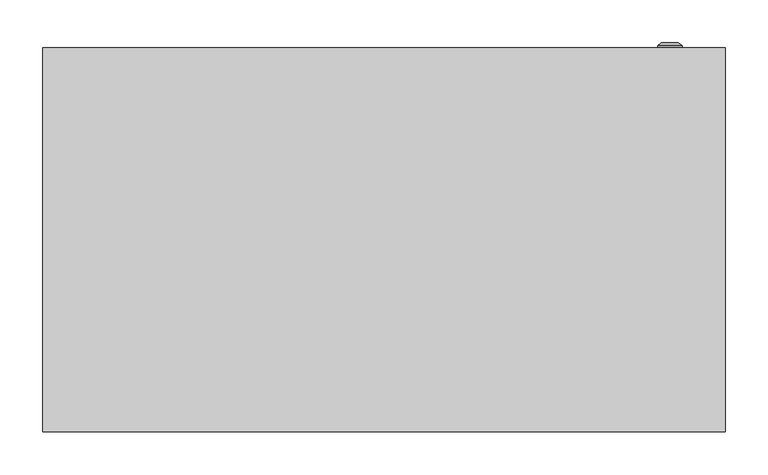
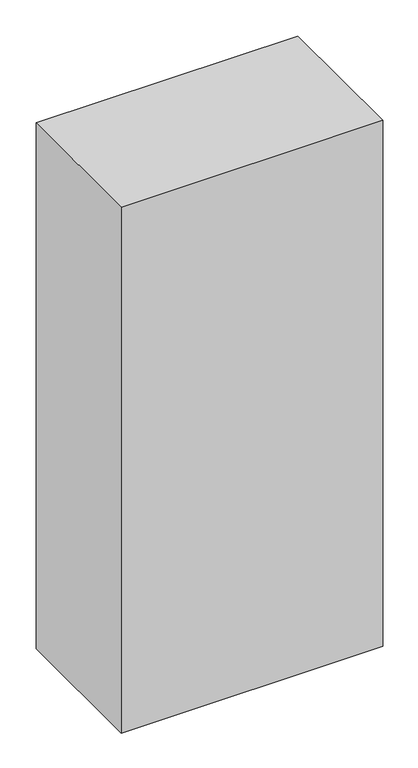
"""IFC4 building model written with IfcOpenShell, lengths in millimetres: proxy geometry, ШРС : ВРУ(ШРС)_моноблочный_1700х800х450."""

from ifc_helpers import new_model, si_unit, frame, origin, place, context, project, spatial, polyline, circle_curve, outline, extrude, faceted_brep, source, transform, mapped, element, save
from ifc_brep_helpers import plane_surface, cylinder_surface, revolved_surface, advanced_brep


def electrical_equipment_0d639fd2(model_context):
    return source(origin(), model_context, "Body", "SolidModel", [
        faceted_brep([(386.0, 430.0, 1635.0), (386.0, 430.0, 65.0187804), (-386.0, 430.0, 65.0187804), (-386.0, 430.0, 1635.0), (365.8707865, 430.0, 93.3701084), (365.8707865, 430.0, 1592.9861595), (-363.3426966, 430.0, 1592.9861595), (-363.3426966, 430.0, 93.3701084), (-400.0, 0.0, 1700.0), (-400.0, 450.0, 1700.0), (-400.0, 450.0, 0.0), (-400.0, 0.0, 0.0), (400.0, 450.0, 1700.0), (400.0, 0.0, 1700.0), (400.0, 0.0, 0.0), (400.0, 450.0, 0.0), (-363.3426966, 10.0, 93.3701084), (365.8707865, 10.0, 93.3701084), (-363.3426966, 10.0, 1592.9861595), (365.8707865, 10.0, 1592.9861595), (386.0, 450.0, 1635.0), (-386.0, 450.0, 1635.0), (386.0, 450.0, 65.0187804), (-386.0, 450.0, 65.0187804)], [[[0, 1, 2, 3], [4, 5, 6, 7]], [[8, 9, 10, 11]], [[12, 13, 14, 15]], [[4, 7, 16, 17]], [[7, 6, 18, 16]], [[6, 5, 19, 18]], [[5, 4, 17, 19]], [[12, 9, 8, 13]], [[20, 0, 3, 21]], [[9, 12, 15, 10], [22, 20, 21, 23]], [[14, 13, 8, 11]], [[1, 22, 23, 2]], [[15, 14, 11, 10]], [[20, 22, 1, 0]], [[23, 21, 3, 2]], [[17, 16, 18, 19]]]),
        extrude(outline(polyline([(-355.8707865, 125.9831461), (-315.8707865, 125.9831461), (-315.8707865, 93.1179775), (-318.8707865, 93.1179775), (-318.8707865, 122.9831461), (-352.8707865, 122.9831461), (-352.8707865, 93.1179775), (-355.8707865, 93.1179775), (-355.8707865, 125.9831461)])), frame((0.0, 0.0, 189.6067416), z_axis=(0.0, 0.0, 1.0), x_axis=(1.0, 0.0, 0.0)), (0.0, 0.0, 1.0), 1445.3932584),
        extrude(outline(polyline([(315.8707865, 125.9831461), (355.8707865, 125.9831461), (355.8707865, 93.1179775), (352.8707865, 93.1179775), (352.8707865, 122.9831461), (318.8707865, 122.9831461), (318.8707865, 93.1179775), (315.8707865, 93.1179775), (315.8707865, 125.9831461)])), frame((0.0, 0.0, 189.6067416), z_axis=(0.0, 0.0, 1.0), x_axis=(1.0, 0.0, 0.0)), (0.0, 0.0, 1.0), 1445.3932584),
        extrude(outline(polyline([(-355.8707865, 10.0), (-365.8707865, 10.0), (-365.8707865, 430.0), (-355.8707865, 430.0), (-355.8707865, 10.0)])), frame((0.0, 0.0, 1545.5966059), z_axis=(0.0, 0.0, 1.0), x_axis=(1.0, 0.0, 0.0)), (0.0, 0.0, 1.0), 53.0898876),
        extrude(outline(polyline([(365.8707865, 10.0), (355.8707865, 10.0), (355.8707865, 430.0), (365.8707865, 430.0), (365.8707865, 10.0)])), frame((0.0, 0.0, 1545.5966059), z_axis=(0.0, 0.0, 1.0), x_axis=(1.0, 0.0, 0.0)), (0.0, 0.0, 1.0), 53.0898876),
        extrude(outline(polyline([(-355.8707865, 10.0), (-365.8707865, 10.0), (-365.8707865, 430.0), (-355.8707865, 430.0), (-355.8707865, 10.0)])), frame((0.0, 0.0, 305.5966059), z_axis=(0.0, 0.0, 1.0), x_axis=(1.0, 0.0, 0.0)), (0.0, 0.0, 1.0), 53.0898876),
        extrude(outline(polyline([(365.8707865, 10.0), (355.8707865, 10.0), (355.8707865, 430.0), (365.8707865, 430.0), (365.8707865, 10.0)])), frame((0.0, 0.0, 305.5966059), z_axis=(0.0, 0.0, 1.0), x_axis=(1.0, 0.0, 0.0)), (0.0, 0.0, 1.0), 53.0898876),
        extrude(outline(polyline([(-355.8707865, 10.0), (-365.8707865, 10.0), (-365.8707865, 430.0), (-355.8707865, 430.0), (-355.8707865, 10.0)])), frame((0.0, 0.0, 785.5966059), z_axis=(0.0, 0.0, 1.0), x_axis=(1.0, 0.0, 0.0)), (0.0, 0.0, 1.0), 53.0898876),
        extrude(outline(polyline([(365.8707865, 10.0), (355.8707865, 10.0), (355.8707865, 430.0), (365.8707865, 430.0), (365.8707865, 10.0)])), frame((0.0, 0.0, 785.5966059), z_axis=(0.0, 0.0, 1.0), x_axis=(1.0, 0.0, 0.0)), (0.0, 0.0, 1.0), 53.0898876),
        advanced_brep(
        [(320.669873, 450.0, 365.0), (349.330127, 450.0, 365.0), (335.0, 450.0, 365.0), (320.669873, 452.366592, 365.0), (349.330127, 452.366592, 365.0), (325.0, 456.0, 365.0), (345.0, 456.0, 365.0), (333.1080471, 456.0, 365.0), (336.8919529, 456.0, 365.0), (333.1080471, 454.9822294, 365.0), (336.8919529, 454.9822294, 365.0), (335.0, 454.9822294, 365.0)],
        [
            (0, 1, circle_curve(frame((335.0, 450.0, 365.0), z_axis=(0.0, -1.0, 0.0), x_axis=(1.0, 0.0, 0.0)), 14.330127)),
            (1, 2),
            (2, 0),
            (1, 0, circle_curve(frame((335.0, 450.0, 365.0), z_axis=(0.0, -1.0, 0.0), x_axis=(1.0, 0.0, 0.0)), 14.330127)),
            (3, 4, circle_curve(frame((335.0, 452.366592, 365.0), z_axis=(0.0, -1.0, 0.0), x_axis=(1.0, 0.0, 0.0)), 14.330127)),
            (4, 1),
            (0, 3),
            (4, 3, circle_curve(frame((335.0, 452.366592, 365.0), z_axis=(0.0, -1.0, 0.0), x_axis=(1.0, 0.0, 0.0)), 14.330127)),
            (5, 6, circle_curve(frame((335.0, 456.0, 365.0), z_axis=(0.0, -1.0, 0.0), x_axis=(1.0, 0.0, 0.0)), 10.0)),
            (6, 4),
            (3, 5),
            (6, 5, circle_curve(frame((335.0, 456.0, 365.0), z_axis=(0.0, -1.0, 0.0), x_axis=(1.0, 0.0, 0.0)), 10.0)),
            (7, 8, circle_curve(frame((335.0, 456.0, 365.0), z_axis=(0.0, -1.0, 0.0), x_axis=(1.0, 0.0, 0.0)), 1.8919529)),
            (8, 6),
            (5, 7),
            (8, 7, circle_curve(frame((335.0, 456.0, 365.0), z_axis=(0.0, -1.0, 0.0), x_axis=(1.0, 0.0, 0.0)), 1.8919529)),
            (9, 10, circle_curve(frame((335.0, 454.9822294, 365.0), z_axis=(0.0, -1.0, 0.0), x_axis=(1.0, 0.0, 0.0)), 1.8919529)),
            (10, 8),
            (7, 9),
            (10, 9, circle_curve(frame((335.0, 454.9822294, 365.0), z_axis=(0.0, -1.0, 0.0), x_axis=(1.0, 0.0, 0.0)), 1.8919529)),
            (11, 10),
            (9, 11),
        ],
        [
            plane_surface(frame((335.0, 450.0, 365.0), z_axis=(0.0, -1.0, 0.0), x_axis=(1.0, 0.0, 0.0))),
            cylinder_surface(frame((335.0, 463.1348851, 365.0), z_axis=(0.0, 1.0, 0.0), x_axis=(1.0, 0.0, 0.0)), 14.330127),
            revolved_surface(polyline([(349.330127, 452.366592, 365.0), (345.0, 456.0, 365.0)]), (335.0, 463.1348851, 365.0), (0.0, 1.0, 0.0)),
            plane_surface(frame((335.0, 456.0, 365.0), z_axis=(0.0, 1.0, 0.0), x_axis=(1.0, 0.0, 0.0))),
            revolved_surface(polyline([(336.8919529, 456.0, 365.0), (336.8919529, 454.9822294, 365.0)]), (335.0, 463.1348851, 365.0), (0.0, 1.0, 0.0)),
            plane_surface(frame((335.0, 454.9822294, 365.0), z_axis=(0.0, 1.0, 0.0), x_axis=(1.0, 0.0, 0.0))),
        ],
        [
            (0, [[1, 2, 3]]),
            (0, [[4, -3, -2]]),
            (1, [[5, 6, -1, 7]]),
            (1, [[8, -7, -4, -6]]),
            (2, [[9, 10, -5, 11]]),
            (2, [[12, -11, -8, -10]]),
            (3, [[13, 14, -9, 15]]),
            (3, [[16, -15, -12, -14]]),
            (4, [[17, 18, -13, 19]]),
            (4, [[20, -19, -16, -18]]),
            (5, [[21, -17, 22]]),
            (5, [[-22, -20, -21]]),
        ],
    ),
        advanced_brep(
        [(320.669873, 450.0, 1335.0), (349.330127, 450.0, 1335.0), (335.0, 450.0, 1335.0), (320.669873, 452.366592, 1335.0), (349.330127, 452.366592, 1335.0), (325.0, 456.0, 1335.0), (345.0, 456.0, 1335.0), (333.1080471, 456.0, 1335.0), (336.8919529, 456.0, 1335.0), (333.1080471, 454.9822294, 1335.0), (336.8919529, 454.9822294, 1335.0), (335.0, 454.9822294, 1335.0)],
        [
            (0, 1, circle_curve(frame((335.0, 450.0, 1335.0), z_axis=(0.0, -1.0, 0.0), x_axis=(1.0, 0.0, 0.0)), 14.330127)),
            (1, 2),
            (2, 0),
            (1, 0, circle_curve(frame((335.0, 450.0, 1335.0), z_axis=(0.0, -1.0, 0.0), x_axis=(1.0, 0.0, 0.0)), 14.330127)),
            (3, 4, circle_curve(frame((335.0, 452.366592, 1335.0), z_axis=(0.0, -1.0, 0.0), x_axis=(1.0, 0.0, 0.0)), 14.330127)),
            (4, 1),
            (0, 3),
            (4, 3, circle_curve(frame((335.0, 452.366592, 1335.0), z_axis=(0.0, -1.0, 0.0), x_axis=(1.0, 0.0, 0.0)), 14.330127)),
            (5, 6, circle_curve(frame((335.0, 456.0, 1335.0), z_axis=(0.0, -1.0, 0.0), x_axis=(1.0, 0.0, 0.0)), 10.0)),
            (6, 4),
            (3, 5),
            (6, 5, circle_curve(frame((335.0, 456.0, 1335.0), z_axis=(0.0, -1.0, 0.0), x_axis=(1.0, 0.0, 0.0)), 10.0)),
            (7, 8, circle_curve(frame((335.0, 456.0, 1335.0), z_axis=(0.0, -1.0, 0.0), x_axis=(1.0, 0.0, 0.0)), 1.8919529)),
            (8, 6),
            (5, 7),
            (8, 7, circle_curve(frame((335.0, 456.0, 1335.0), z_axis=(0.0, -1.0, 0.0), x_axis=(1.0, 0.0, 0.0)), 1.8919529)),
            (9, 10, circle_curve(frame((335.0, 454.9822294, 1335.0), z_axis=(0.0, -1.0, 0.0), x_axis=(1.0, 0.0, 0.0)), 1.8919529)),
            (10, 8),
            (7, 9),
            (10, 9, circle_curve(frame((335.0, 454.9822294, 1335.0), z_axis=(0.0, -1.0, 0.0), x_axis=(1.0, 0.0, 0.0)), 1.8919529)),
            (11, 10),
            (9, 11),
        ],
        [
            plane_surface(frame((335.0, 450.0, 1335.0), z_axis=(0.0, -1.0, 0.0), x_axis=(1.0, 0.0, 0.0))),
            cylinder_surface(frame((335.0, 463.1348851, 1335.0), z_axis=(0.0, 1.0, 0.0), x_axis=(1.0, 0.0, 0.0)), 14.330127),
            revolved_surface(polyline([(349.330127, 452.366592, 1335.0), (345.0, 456.0, 1335.0)]), (335.0, 463.1348851, 1335.0), (0.0, 1.0, 0.0)),
            plane_surface(frame((335.0, 456.0, 1335.0), z_axis=(0.0, 1.0, 0.0), x_axis=(1.0, 0.0, 0.0))),
            revolved_surface(polyline([(336.8919529, 456.0, 1335.0), (336.8919529, 454.9822294, 1335.0)]), (335.0, 463.1348851, 1335.0), (0.0, 1.0, 0.0)),
            plane_surface(frame((335.0, 454.9822294, 1335.0), z_axis=(0.0, 1.0, 0.0), x_axis=(1.0, 0.0, 0.0))),
        ],
        [
            (0, [[1, 2, 3]]),
            (0, [[4, -3, -2]]),
            (1, [[5, 6, -1, 7]]),
            (1, [[8, -7, -4, -6]]),
            (2, [[9, 10, -5, 11]]),
            (2, [[12, -11, -8, -10]]),
            (3, [[13, 14, -9, 15]]),
            (3, [[16, -15, -12, -14]]),
            (4, [[17, 18, -13, 19]]),
            (4, [[20, -19, -16, -18]]),
            (5, [[21, -17, 22]]),
            (5, [[-22, -20, -21]]),
        ],
    ),
        extrude(outline(polyline([(385.0, 430.0), (-385.0, 430.0), (-385.0, 450.0), (385.0, 450.0), (385.0, 430.0)])), frame((0.0, 0.0, 65.0187804), z_axis=(0.0, 0.0, 1.0), x_axis=(1.0, 0.0, 0.0)), (0.0, 0.0, 1.0), 1569.9812196),
    ])


if __name__ == "__main__":
    model = new_model("IFC4")
    model_context = context("Model", 3, world=origin())
    ifc_project = project(units=[si_unit("LENGTHUNIT", "METRE", prefix="MILLI")], contexts=[model_context])
    site = spatial("IfcSite", under=ifc_project)
    building = spatial("IfcBuilding", under=site)
    placement = place(None, origin())
    electrical_equipment_shape = electrical_equipment_0d639fd2(model_context)
    element("IfcBuildingElementProxy", 1, Name="ШРС : ВРУ(ШРС)_моноблочный_1700х800х450", ObjectType="ШРС : ВРУ(ШРС)_моноблочный_1700х800х450", at=placement, inside=building, context=model_context, shape_type="MappedRepresentation", body=[
        mapped(electrical_equipment_shape, transform((0.0, 0.0, 0.0), x_axis=(1.0, 0.0, 0.0), y_axis=(0.0, 1.0, 0.0), z_axis=(0.0, 0.0, 1.0))),
    ])
    save(model, "model.ifc")
